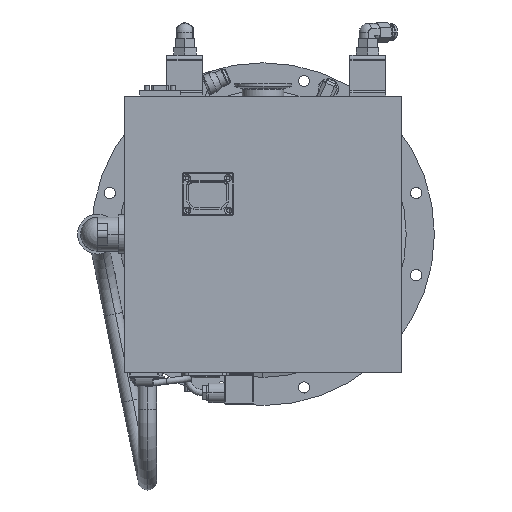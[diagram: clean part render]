
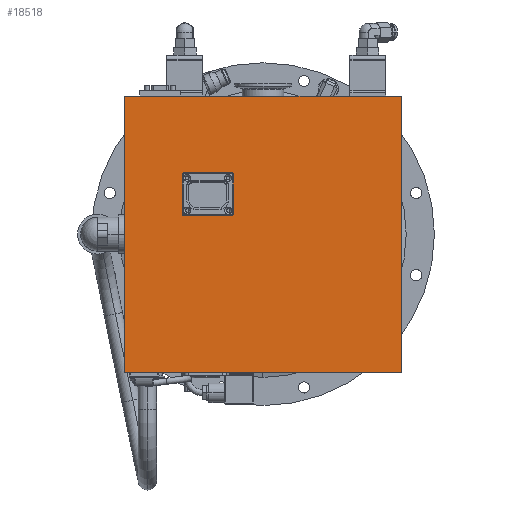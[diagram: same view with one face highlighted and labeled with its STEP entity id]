
A CAD part, front view. The second image highlights one B-rep face of the part: STEP entity #18518.
In plain terms, the highlighted planar face has unit normal (0, -1, 0).
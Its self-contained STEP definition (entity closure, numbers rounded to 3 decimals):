
#82=DIRECTION('',(-1.,0.,0.));
#83=VECTOR('',#82,270.);
#84=CARTESIAN_POINT('',(135.,-202.7,135.));
#85=LINE('',#84,#83);
#198=DIRECTION('',(0.,0.,1.));
#199=VECTOR('',#198,270.);
#200=CARTESIAN_POINT('',(135.,-202.7,-135.));
#201=LINE('',#200,#199);
#214=DIRECTION('',(-1.,0.,0.));
#215=VECTOR('',#214,270.);
#216=CARTESIAN_POINT('',(135.,-202.7,-135.));
#217=LINE('',#216,#215);
#406=DIRECTION('',(0.,0.,1.));
#407=VECTOR('',#406,270.);
#408=CARTESIAN_POINT('',(-135.,-202.7,-135.));
#409=LINE('',#408,#407);
#410=DIRECTION('',(1.,0.,0.));
#411=VECTOR('',#410,48.);
#412=CARTESIAN_POINT('',(-78.,-202.7,18.));
#413=LINE('',#412,#411);
#414=DIRECTION('',(-0.707,0.,-0.707));
#415=VECTOR('',#414,1.414);
#416=CARTESIAN_POINT('',(-29.,-202.7,19.));
#417=LINE('',#416,#415);
#418=DIRECTION('',(0.,0.,1.));
#419=VECTOR('',#418,40.);
#420=CARTESIAN_POINT('',(-29.,-202.7,19.));
#421=LINE('',#420,#419);
#422=DIRECTION('',(0.707,0.,-0.707));
#423=VECTOR('',#422,1.414);
#424=CARTESIAN_POINT('',(-30.,-202.7,60.));
#425=LINE('',#424,#423);
#426=DIRECTION('',(-1.,0.,0.));
#427=VECTOR('',#426,48.);
#428=CARTESIAN_POINT('',(-30.,-202.7,60.));
#429=LINE('',#428,#427);
#430=DIRECTION('',(0.707,0.,0.707));
#431=VECTOR('',#430,1.414);
#432=CARTESIAN_POINT('',(-79.,-202.7,59.));
#433=LINE('',#432,#431);
#434=DIRECTION('',(0.,0.,-1.));
#435=VECTOR('',#434,40.);
#436=CARTESIAN_POINT('',(-79.,-202.7,59.));
#437=LINE('',#436,#435);
#438=DIRECTION('',(-0.707,0.,0.707));
#439=VECTOR('',#438,1.414);
#440=CARTESIAN_POINT('',(-78.,-202.7,18.));
#441=LINE('',#440,#439);
#14863=CARTESIAN_POINT('',(135.,-202.7,135.));
#14865=VERTEX_POINT('',#14863);
#14868=CARTESIAN_POINT('',(-135.,-202.7,135.));
#14869=VERTEX_POINT('',#14868);
#14871=CARTESIAN_POINT('',(135.,-202.7,-135.));
#14873=VERTEX_POINT('',#14871);
#14876=CARTESIAN_POINT('',(-135.,-202.7,-135.));
#14877=VERTEX_POINT('',#14876);
#16743=CARTESIAN_POINT('',(-78.,-202.7,18.));
#16744=CARTESIAN_POINT('',(-30.,-202.7,18.));
#16745=VERTEX_POINT('',#16743);
#16746=VERTEX_POINT('',#16744);
#16747=CARTESIAN_POINT('',(-29.,-202.7,19.));
#16748=CARTESIAN_POINT('',(-29.,-202.7,59.));
#16749=VERTEX_POINT('',#16747);
#16750=VERTEX_POINT('',#16748);
#16751=CARTESIAN_POINT('',(-30.,-202.7,60.));
#16752=CARTESIAN_POINT('',(-78.,-202.7,60.));
#16753=VERTEX_POINT('',#16751);
#16754=VERTEX_POINT('',#16752);
#16755=CARTESIAN_POINT('',(-79.,-202.7,59.));
#16756=CARTESIAN_POINT('',(-79.,-202.7,19.));
#16757=VERTEX_POINT('',#16755);
#16758=VERTEX_POINT('',#16756);
#18489=CARTESIAN_POINT('',(-135.,-202.7,135.));
#18490=DIRECTION('',(0.,-1.,0.));
#18491=DIRECTION('',(1.,0.,0.));
#18492=AXIS2_PLACEMENT_3D('',#18489,#18490,#18491);
#18493=PLANE('',#18492);
#18494=ORIENTED_EDGE('',*,*,#18246,.F.);
#18495=ORIENTED_EDGE('',*,*,#18351,.F.);
#18496=ORIENTED_EDGE('',*,*,#18365,.T.);
#18497=ORIENTED_EDGE('',*,*,#18482,.T.);
#18498=EDGE_LOOP('',(#18494,#18495,#18496,#18497));
#18499=FACE_OUTER_BOUND('',#18498,.F.);
#18501=ORIENTED_EDGE('',*,*,#18500,.T.);
#18503=ORIENTED_EDGE('',*,*,#18502,.F.);
#18505=ORIENTED_EDGE('',*,*,#18504,.T.);
#18507=ORIENTED_EDGE('',*,*,#18506,.F.);
#18509=ORIENTED_EDGE('',*,*,#18508,.T.);
#18511=ORIENTED_EDGE('',*,*,#18510,.F.);
#18513=ORIENTED_EDGE('',*,*,#18512,.T.);
#18515=ORIENTED_EDGE('',*,*,#18514,.F.);
#18516=EDGE_LOOP('',(#18501,#18503,#18505,#18507,#18509,#18511,#18513,#18515));
#18517=FACE_BOUND('',#18516,.F.);
#18518=ADVANCED_FACE('',(#18499,#18517),#18493,.T.);
#18246=EDGE_CURVE('',#14865,#14869,#85,.T.);
#18351=EDGE_CURVE('',#14873,#14865,#201,.T.);
#18365=EDGE_CURVE('',#14873,#14877,#217,.T.);
#18482=EDGE_CURVE('',#14877,#14869,#409,.T.);
#18500=EDGE_CURVE('',#16745,#16746,#413,.T.);
#18502=EDGE_CURVE('',#16749,#16746,#417,.T.);
#18504=EDGE_CURVE('',#16749,#16750,#421,.T.);
#18506=EDGE_CURVE('',#16753,#16750,#425,.T.);
#18508=EDGE_CURVE('',#16753,#16754,#429,.T.);
#18510=EDGE_CURVE('',#16757,#16754,#433,.T.);
#18512=EDGE_CURVE('',#16757,#16758,#437,.T.);
#18514=EDGE_CURVE('',#16745,#16758,#441,.T.);
